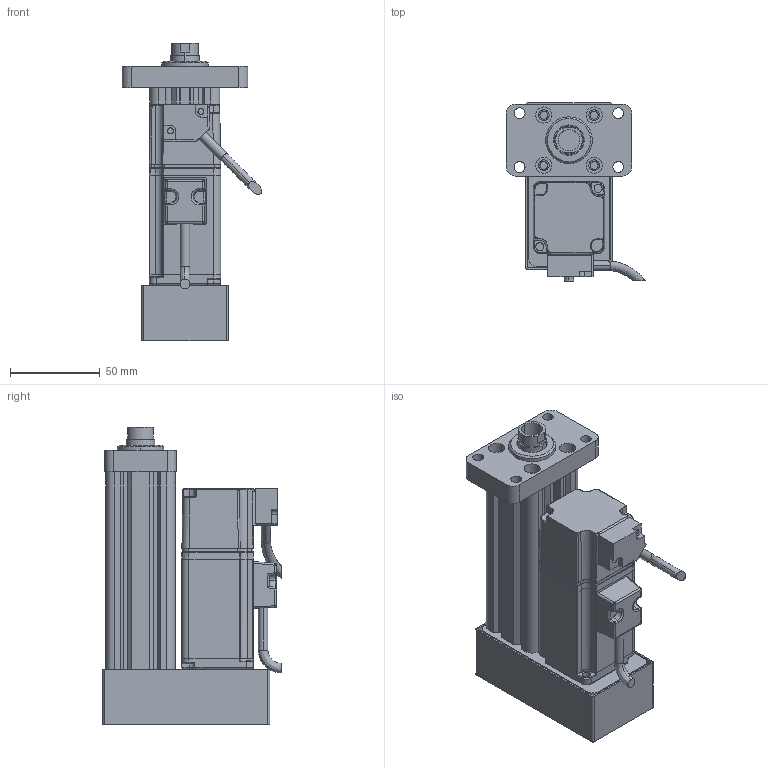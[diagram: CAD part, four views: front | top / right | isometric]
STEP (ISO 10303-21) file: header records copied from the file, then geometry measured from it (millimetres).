
FILE_DESCRIPTION (( 'STEP AP214' ), '1' );
FILE_NAME ('039-S50-D02-B-M3-C2-2.STEP', '2021-02-25T08:45:01', ( '' ), ( '' ), 'SwSTEP 2.0', 'SolidWorks 2018', '' );
FILE_SCHEMA (( 'AUTOMOTIVE_DESIGN' ));
Length unit declared in the file: millimetre
Products named in the file (7): CMC039-XT; CMC039-LJB; 039-S50-D02-B-M3-C2-2; CMC039-DT; CMC039-GT; ECMA-CX0401ES-40框號系列機種-100W低慣量系列; CMC039-FL
Assembly tree (6 placements, depth 2):
  039-S50-D02-B-M3-C2-2
    CMC039-GT
    CMC039-LJB
    CMC039-XT
    CMC039-FL
    CMC039-DT
    ECMA-CX0401ES-40框號系列機種-100W低慣量系列
Bounding box: 77.84 x 99.39 x 166 mm (x, y, z)
Volume: 342395.8 mm3; surface area: 118429.9 mm2
Topology: 6 solids, 14 shells, 612 faces, 1592 edges, 989 vertices
Faces by surface type: cylinder 250, plane 239, bspline 84, cone 39
Entity records: 24722 total; most frequent: CARTESIAN_POINT 10684, ORIENTED_EDGE 3118, DIRECTION 2445, EDGE_CURVE 1559, VERTEX_POINT 989, AXIS2_PLACEMENT_3D 837, VECTOR 771, LINE 771
